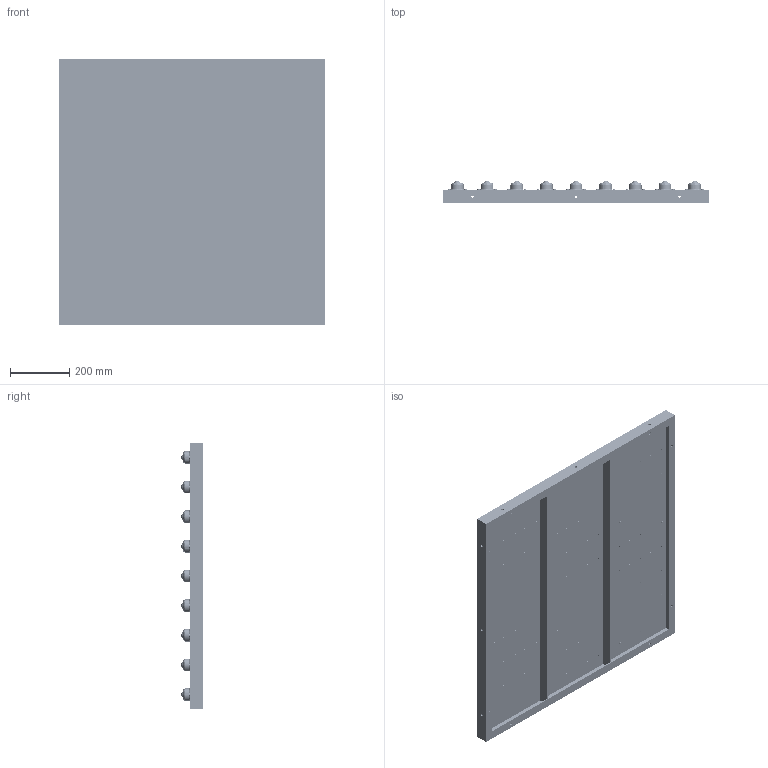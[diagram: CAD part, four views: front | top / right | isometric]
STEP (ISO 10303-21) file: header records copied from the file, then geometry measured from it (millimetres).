
FILE_DESCRIPTION (( 'STEP AP203' ), '1' );
FILE_NAME ('PVT-9.STEP', '2016-01-07T05:14:51', ( '' ), ( '' ), 'SwSTEP 2.0', 'SolidWorks 2013', '' );
FILE_SCHEMA (( 'CONFIG_CONTROL_DESIGN' ));
Length unit declared in the file: millimetre
Products named in the file (4): pv30; pvt-9 part; cross recessed pan head screw_jis_JIS B 1111 Cross recessed pan head screw - M5 x 6 - Z --6C; PVT-9
Assembly tree (244 placements, depth 2):
  PVT-9
    pv30  x81
    pvt-9 part
    cross recessed pan head screw_jis_JIS B 1111 Cross recessed pan head screw - M5 x 6 - Z --6C  x162
Bounding box: 900 x 74 x 900 mm (x, y, z)
Volume: 6568575.9 mm3; surface area: 2884713.5 mm2
Topology: 244 solids, 244 shells, 7759 faces, 19215 edges, 11946 vertices
Faces by surface type: plane 3507, cylinder 1903, cone 972, torus 648, bspline 405, sphere 324
Entity records: 24340 total; most frequent: DIRECTION 3451, CARTESIAN_POINT 3243, ORIENTED_EDGE 2578, AXIS2_PLACEMENT_3D 1489, EDGE_CURVE 1289, VERTEX_POINT 855, EDGE_LOOP 818, CIRCLE 802
